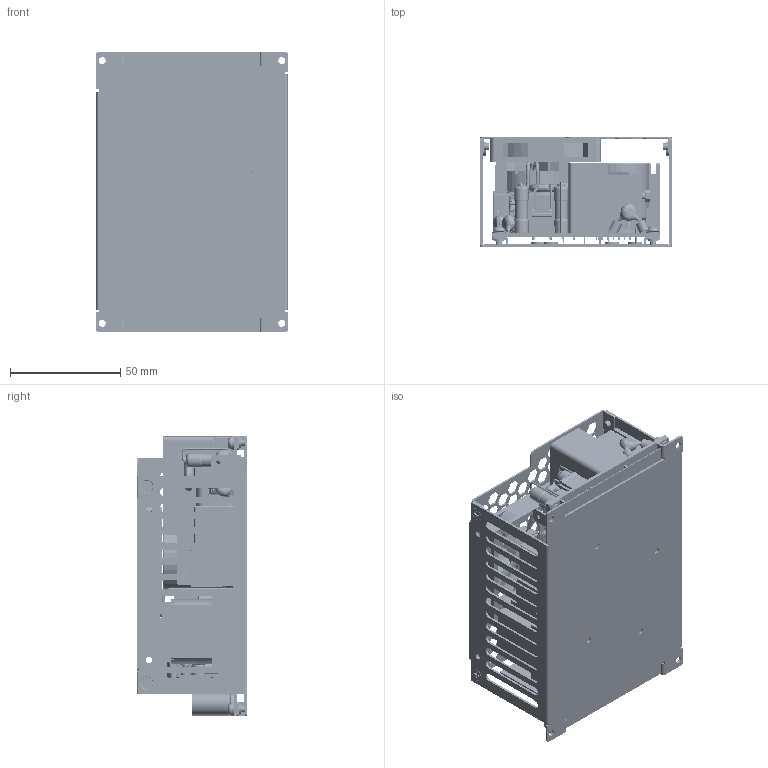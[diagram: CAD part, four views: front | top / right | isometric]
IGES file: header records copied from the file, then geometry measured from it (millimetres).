
Start section: SolidWorks IGES file using analytic representation for surfaces
Global section: file name: C:\Users\ksmith\Desktop\ECH450\ECH450PS12_24-TF\ECH450PS12_24-TF.IGS; native system: SolidWorks 2018; preprocessor: SolidWorks 2018; author: ksmith; date: 200407.114128; units: inch
Bounding box: 86.6 x 50 x 127 mm (x, y, z)
Surface area: 183062 mm2 (no closed solid volume)
Topology: 0 solids, 0 shells, 5437 faces, 46155 edges, 46116 vertices
Faces by surface type: bspline 4404, revolution 1033
